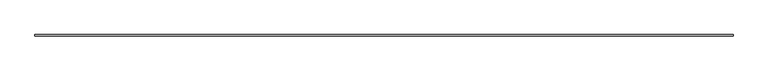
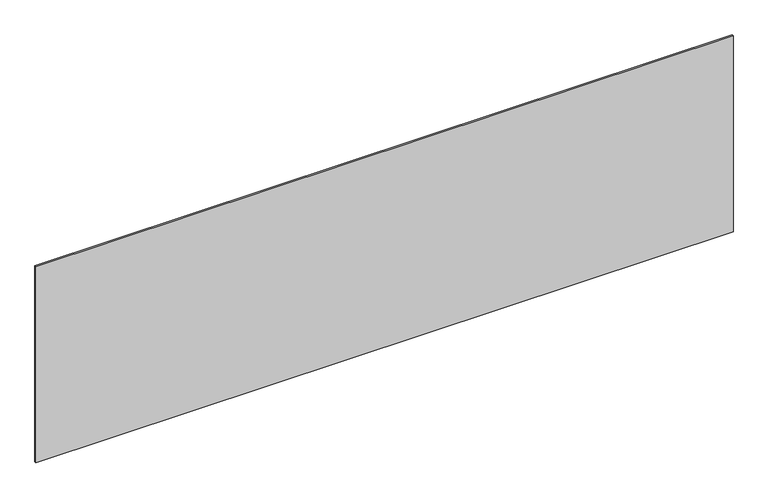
"""IFC4 building model written with IfcOpenShell, lengths in millimetres: plate geometry, システム パネル : 標準."""

import ifcopenshell
import ifcopenshell.guid

model = None  # the IFC model being written
_history = None  # IfcOwnerHistory: only IFC2X3 demands one
_inside = {}  # id of a spatial element -> (the spatial element, [elements in it])
_under = {}  # id of a project, library or spatial element -> (it, [spatial elements below it])
_declared = {}  # id of a project -> (the project, [libraries it declares])
_typed = {}  # id of a type object -> (the type object, [elements of that type])
_made_of = {}  # id of a material, layer set ... -> (it, [elements and type objects made of it])


def new_model(schema):
    """Start an empty IFC model of exactly this schema.

    Asked for "IFC4X3", IfcOpenShell would pick the latest addendum, in which some entities
    have other attributes; the version numbers below select the first issue.
    IFC2X3 requires an IfcOwnerHistory on every rooted entity: one is made here for all.
    """
    global model, _history
    if schema == "IFC4X3":
        model = ifcopenshell.file(schema_version=(4, 3, 0, 0))
    else:
        model = ifcopenshell.file(schema=schema)
    _inside.clear()
    _under.clear()
    _declared.clear()
    _typed.clear()
    _made_of.clear()
    _history = None
    if model.schema == "IFC2X3":
        org = make("IfcOrganization", Name="unknown")
        user = make(
            "IfcPersonAndOrganization",
            ThePerson=make("IfcPerson", FamilyName="unknown"),
            TheOrganization=org,
        )
        app = make(
            "IfcApplication",
            ApplicationDeveloper=org,
            Version="unknown",
            ApplicationFullName="unknown",
            ApplicationIdentifier="unknown",
        )
        _history = make(
            "IfcOwnerHistory",
            OwningUser=user,
            OwningApplication=app,
            ChangeAction="ADDED",
            CreationDate=0,
        )
    return model


def make(cls, **values):
    """One entity of the class cls with the attributes given. An attribute that is None is left unset."""
    return model.create_entity(
        cls, **{name: value for name, value in values.items() if value is not None}
    )


def rooted(cls, **values):
    """An entity with a GlobalId (a new one), such as an element, a storey or a relation."""
    return make(cls, GlobalId=ifcopenshell.guid.new(), OwnerHistory=_history, **values)


def si_unit(unit_type, name, prefix=None):
    """IfcSIUnit, for example si_unit("LENGTHUNIT", "METRE", prefix="MILLI")."""
    return make("IfcSIUnit", UnitType=unit_type, Prefix=prefix, Name=name)


def assignment(units):
    """IfcUnitAssignment: the units of a project."""
    return None if units is None else make("IfcUnitAssignment", Units=units)


def point(xyz):
    """IfcCartesianPoint."""
    return None if xyz is None else make("IfcCartesianPoint", Coordinates=xyz)


def direction(xyz):
    """IfcDirection."""
    return None if xyz is None else make("IfcDirection", DirectionRatios=xyz)


def frame(location, z_axis=None, x_axis=None):
    """IfcAxis2Placement3D, a coordinate frame: its origin and axes. An axis left out is left unset."""
    return make(
        "IfcAxis2Placement3D",
        Location=point(location),
        Axis=direction(z_axis),
        RefDirection=direction(x_axis),
    )


def origin():
    """The frame at (0, 0, 0) with its axes left unset."""
    return frame((0.0, 0.0, 0.0))


def origin_with_axes():
    """The frame at (0, 0, 0) with the z axis (0, 0, 1) and the x axis (1, 0, 0) written out."""
    return frame((0.0, 0.0, 0.0), z_axis=(0.0, 0.0, 1.0), x_axis=(1.0, 0.0, 0.0))


def place(relative_to, where):
    """IfcLocalPlacement: puts the frame where relative to a parent placement (None: the world)."""
    return make(
        "IfcLocalPlacement", PlacementRelTo=relative_to, RelativePlacement=where
    )


def context(
    kind, dimensions, precision=None, world=None, true_north=None, identifier=None
):
    """IfcGeometricRepresentationContext, for example the 3D "Model" context."""
    return make(
        "IfcGeometricRepresentationContext",
        ContextIdentifier=identifier,
        ContextType=kind,
        CoordinateSpaceDimension=dimensions,
        Precision=precision,
        WorldCoordinateSystem=world,
        TrueNorth=true_north,
    )


def project(units=None, contexts=None):
    """IfcProject with its units and contexts."""
    return rooted(
        "IfcProject",
        Name="project",
        RepresentationContexts=contexts,
        UnitsInContext=assignment(units),
    )


def spatial(cls, under=None, at=None, **own):
    """A site, building, storey or space (cls), placed at a placement, below another one or the project."""
    s = rooted(cls, ObjectPlacement=at, **own)
    if under is not None:
        _under.setdefault(under.id(), (under, []))[1].append(s)
    return s


def polyline(points):
    """IfcPolyline through the points."""
    return make("IfcPolyline", Points=[point(p) for p in points])


def outline(outer, holes=None, kind="AREA"):
    """IfcArbitraryClosedProfileDef: a profile drawn as a closed curve; with holes, ...WithVoids."""
    if holes is None:
        return make("IfcArbitraryClosedProfileDef", ProfileType=kind, OuterCurve=outer)
    return make(
        "IfcArbitraryProfileDefWithVoids",
        ProfileType=kind,
        OuterCurve=outer,
        InnerCurves=holes,
    )


def extrude(swept, where, along, depth):
    """IfcExtrudedAreaSolid: the profile swept, set in the frame where, extruded along a direction by depth."""
    return make(
        "IfcExtrudedAreaSolid",
        SweptArea=swept,
        Position=where,
        ExtrudedDirection=direction(along),
        Depth=depth,
    )


def shape(context_of_items, identifier, shape_type, items):
    """IfcShapeRepresentation: the items that make up one representation, for example the "Body"."""
    return make(
        "IfcShapeRepresentation",
        ContextOfItems=context_of_items,
        RepresentationIdentifier=identifier,
        RepresentationType=shape_type,
        Items=items,
    )


def source(mapping_origin, context_of_items, identifier, shape_type, items):
    """IfcRepresentationMap: a shape defined once, which mapped items show again and again."""
    return make(
        "IfcRepresentationMap",
        MappingOrigin=mapping_origin,
        MappedRepresentation=shape(context_of_items, identifier, shape_type, items),
    )


def transform(
    local_origin,
    x_axis=None,
    y_axis=None,
    z_axis=None,
    scale=None,
    scale2=None,
    scale3=None,
    uniform=True,
):
    """IfcCartesianTransformationOperator3D, or its non-uniform kind. x_axis, y_axis, z_axis: its Axis1, 2, 3."""
    if uniform:
        return make(
            "IfcCartesianTransformationOperator3D",
            Axis1=direction(x_axis),
            Axis2=direction(y_axis),
            LocalOrigin=point(local_origin),
            Scale=scale,
            Axis3=direction(z_axis),
        )
    return make(
        "IfcCartesianTransformationOperator3DnonUniform",
        Axis1=direction(x_axis),
        Axis2=direction(y_axis),
        LocalOrigin=point(local_origin),
        Scale=scale,
        Axis3=direction(z_axis),
        Scale2=scale2,
        Scale3=scale3,
    )


def mapped(mapping_source, mapping_target):
    """IfcMappedItem: shows the shape of a source again, moved by a transform."""
    return make(
        "IfcMappedItem", MappingSource=mapping_source, MappingTarget=mapping_target
    )


def made_of(thing, what):
    """Note that an element or type object is made of a material, layer set ...; save() writes the relation."""
    if what is not None:
        _made_of.setdefault(what.id(), (what, []))[1].append(thing)
    return thing


def element(
    cls,
    number,
    at=None,
    inside=None,
    cuts=None,
    type_object=None,
    material=None,
    context=None,
    identifier="Body",
    shape_type=None,
    held_by="IfcProductDefinitionShape",
    body=None,
    shapes=None,
    **own,
):
    """One element of the class cls, such as IfcWall. Its Tag is "e" and its number.

    at: its placement. inside: the storey or other place that contains it. cuts: it is an
    opening in that element (IfcRelVoidsElement). A single representation is given by context,
    identifier, shape_type and body (its items); several are given by shapes. held_by: the class
    of the entity that holds the representations. save() writes the other relations.
    """
    e = rooted(cls, Tag="e%d" % number, ObjectPlacement=at, **own)
    if body is not None:
        shapes = [shape(context, identifier, shape_type, body)]
    if shapes is not None:
        e.Representation = make(held_by, Representations=shapes)
    if inside is not None:
        _inside.setdefault(inside.id(), (inside, []))[1].append(e)
    if cuts is not None:
        rooted(
            "IfcRelVoidsElement", RelatingBuildingElement=cuts, RelatedOpeningElement=e
        )
    if type_object is not None:
        _typed.setdefault(type_object.id(), (type_object, []))[1].append(e)
    return made_of(e, material)


def aggregate(whole, parts):
    """IfcRelAggregates: a whole, such as a stair, and the parts it consists of."""
    return rooted("IfcRelAggregates", RelatingObject=whole, RelatedObjects=parts)


def save(model, path):
    """Write the relations noted so far, then the file.

    IfcRelAggregates (storeys below a building ...), IfcRelContainedInSpatialStructure (elements
    in a storey), IfcRelDefinesByType, IfcRelAssociatesMaterial and IfcRelDeclares: one each for
    every whole, place, type object, material and project.
    """
    for whole, parts in _under.values():
        aggregate(whole, parts)
    for where, things in _inside.values():
        rooted(
            "IfcRelContainedInSpatialStructure",
            RelatedElements=things,
            RelatingStructure=where,
        )
    for kind, things in _typed.values():
        rooted("IfcRelDefinesByType", RelatedObjects=things, RelatingType=kind)
    for what, things in _made_of.values():
        rooted("IfcRelAssociatesMaterial", RelatedObjects=things, RelatingMaterial=what)
    for by, libraries in _declared.values():
        rooted("IfcRelDeclares", RelatingContext=by, RelatedDefinitions=libraries)
    model.write(path)


def plate_5af0ace7(model_context):
    return source(origin(), model_context, "Body", "SweptSolid", [
        extrude(outline(polyline([(2264.1666667, -5.0), (-2264.1666667, -5.0), (-2264.1666667, 5.0), (2264.1666667, 5.0), (2264.1666667, -5.0)])), origin_with_axes(), (0.0, 0.0, 1.0), 1345.016358),
    ])


if __name__ == "__main__":
    model = new_model("IFC4")
    model_context = context("Model", 3, world=origin())
    ifc_project = project(units=[si_unit("LENGTHUNIT", "METRE", prefix="MILLI")], contexts=[model_context])
    site = spatial("IfcSite", under=ifc_project)
    building = spatial("IfcBuilding", under=site)
    placement = place(None, origin())
    plate_shape = plate_5af0ace7(model_context)
    element("IfcPlate", 1, ObjectType="システム パネル : 標準", at=placement, inside=building, context=model_context, shape_type="MappedRepresentation", body=[
        mapped(plate_shape, transform((0.0, 0.0, 0.0), x_axis=(1.0, 0.0, 0.0), y_axis=(0.0, 1.0, 0.0), z_axis=(0.0, 0.0, 1.0))),
    ])
    save(model, "model.ifc")
